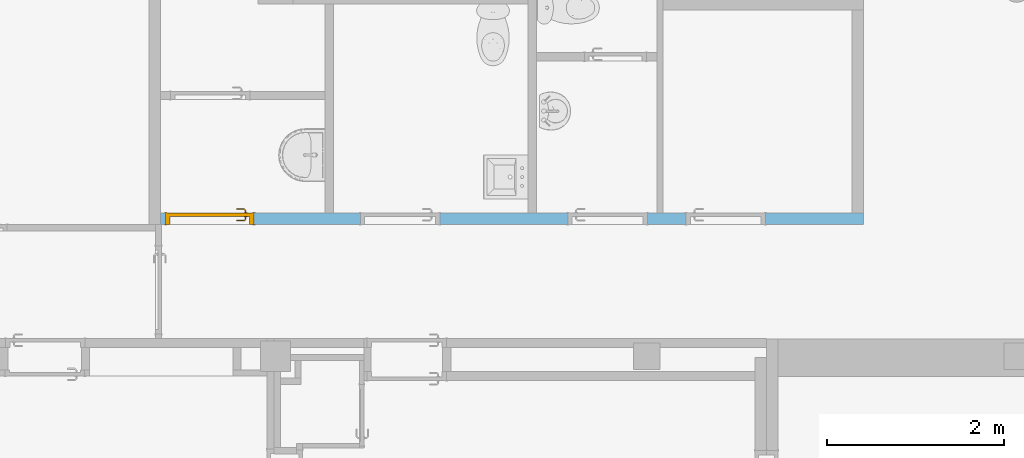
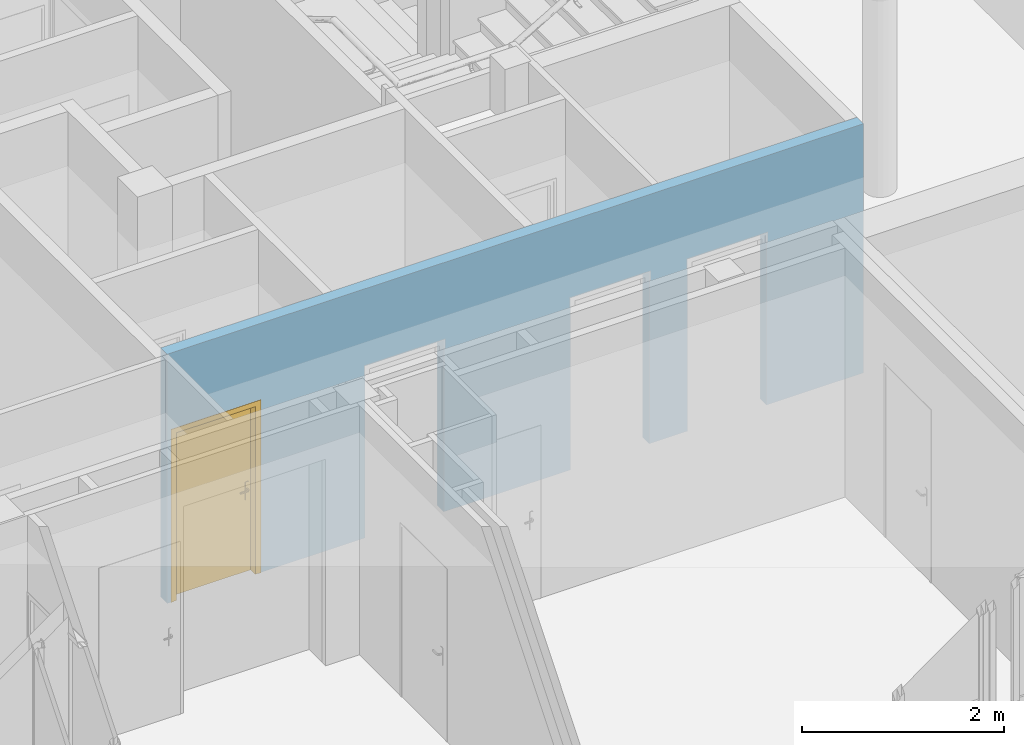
# One storey, part 65 of 97: 1 door, 4 openings, plus 1 element that does not belong to this part.
"""IFC4 building model written with IfcOpenShell, lengths in metres."""

import ifcopenshell
import ifcopenshell.guid

model = None  # the IFC model being written
_history = None  # IfcOwnerHistory: only IFC2X3 demands one
_inside = {}  # id of a spatial element -> (the spatial element, [elements in it])
_under = {}  # id of a project, library or spatial element -> (it, [spatial elements below it])
_declared = {}  # id of a project -> (the project, [libraries it declares])
_typed = {}  # id of a type object -> (the type object, [elements of that type])
_made_of = {}  # id of a material, layer set ... -> (it, [elements and type objects made of it])


def new_model(schema):
    """Start an empty IFC model of exactly this schema.

    Asked for "IFC4X3", IfcOpenShell would pick the latest addendum, in which some entities
    have other attributes; the version numbers below select the first issue.
    IFC2X3 requires an IfcOwnerHistory on every rooted entity: one is made here for all.
    """
    global model, _history
    if schema == "IFC4X3":
        model = ifcopenshell.file(schema_version=(4, 3, 0, 0))
    else:
        model = ifcopenshell.file(schema=schema)
    _inside.clear()
    _under.clear()
    _declared.clear()
    _typed.clear()
    _made_of.clear()
    _history = None
    if model.schema == "IFC2X3":
        org = make("IfcOrganization", Name="unknown")
        user = make(
            "IfcPersonAndOrganization",
            ThePerson=make("IfcPerson", FamilyName="unknown"),
            TheOrganization=org,
        )
        app = make(
            "IfcApplication",
            ApplicationDeveloper=org,
            Version="unknown",
            ApplicationFullName="unknown",
            ApplicationIdentifier="unknown",
        )
        _history = make(
            "IfcOwnerHistory",
            OwningUser=user,
            OwningApplication=app,
            ChangeAction="ADDED",
            CreationDate=0,
        )
    return model


def make(cls, **values):
    """One entity of the class cls with the attributes given. An attribute that is None is left unset."""
    return model.create_entity(
        cls, **{name: value for name, value in values.items() if value is not None}
    )


def entity(cls, *values):
    """Any entity or typed value of the class cls, its attributes in the order of the schema. None: left unset."""
    e = model.create_entity(cls)
    for i, value in enumerate(values):
        if value is not None:
            e[i] = value
    return e


def rooted(cls, **values):
    """An entity with a GlobalId (a new one), such as an element, a storey or a relation."""
    return make(cls, GlobalId=ifcopenshell.guid.new(), OwnerHistory=_history, **values)


def si_unit(unit_type, name, prefix=None):
    """IfcSIUnit, for example si_unit("LENGTHUNIT", "METRE", prefix="MILLI")."""
    return make("IfcSIUnit", UnitType=unit_type, Prefix=prefix, Name=name)


def converted_unit(unit_type, name, factor, base, dimensions=None, offset=None):
    """IfcConversionBasedUnit, such as the inch: factor (a typed value) times the base unit."""
    return make(
        "IfcConversionBasedUnit"
        if offset is None
        else "IfcConversionBasedUnitWithOffset",
        ConversionOffset=offset,
        Dimensions=None
        if dimensions is None
        else entity("IfcDimensionalExponents", *dimensions),
        UnitType=unit_type,
        Name=name,
        ConversionFactor=make(
            "IfcMeasureWithUnit", ValueComponent=factor, UnitComponent=base
        ),
    )


def derived_unit(unit_type, elements):
    """IfcDerivedUnit: a product of units, each with its exponent."""
    return make(
        "IfcDerivedUnit",
        Elements=[
            make("IfcDerivedUnitElement", Unit=unit, Exponent=power)
            for unit, power in elements
        ],
        UnitType=unit_type,
    )


def assignment(units):
    """IfcUnitAssignment: the units of a project."""
    return None if units is None else make("IfcUnitAssignment", Units=units)


def point(xyz):
    """IfcCartesianPoint."""
    return None if xyz is None else make("IfcCartesianPoint", Coordinates=xyz)


def direction(xyz):
    """IfcDirection."""
    return None if xyz is None else make("IfcDirection", DirectionRatios=xyz)


def frame(location, z_axis=None, x_axis=None):
    """IfcAxis2Placement3D, a coordinate frame: its origin and axes. An axis left out is left unset."""
    return make(
        "IfcAxis2Placement3D",
        Location=point(location),
        Axis=direction(z_axis),
        RefDirection=direction(x_axis),
    )


def origin():
    """The frame at (0, 0, 0) with its axes left unset."""
    return frame((0.0, 0.0, 0.0))


def place(relative_to, where):
    """IfcLocalPlacement: puts the frame where relative to a parent placement (None: the world)."""
    return make(
        "IfcLocalPlacement", PlacementRelTo=relative_to, RelativePlacement=where
    )


def context(
    kind, dimensions, precision=None, world=None, true_north=None, identifier=None
):
    """IfcGeometricRepresentationContext, for example the 3D "Model" context."""
    return make(
        "IfcGeometricRepresentationContext",
        ContextIdentifier=identifier,
        ContextType=kind,
        CoordinateSpaceDimension=dimensions,
        Precision=precision,
        WorldCoordinateSystem=world,
        TrueNorth=true_north,
    )


def subcontext(parent, identifier, kind, view, scale=None):
    """IfcGeometricRepresentationSubContext, for example "Body" below "Model"."""
    return make(
        "IfcGeometricRepresentationSubContext",
        ContextIdentifier=identifier,
        ContextType=kind,
        ParentContext=parent,
        TargetScale=scale,
        TargetView=view,
    )


def project(units=None, contexts=None):
    """IfcProject with its units and contexts."""
    return rooted(
        "IfcProject",
        Name="project",
        RepresentationContexts=contexts,
        UnitsInContext=assignment(units),
    )


def spatial(cls, under=None, at=None, **own):
    """A site, building, storey or space (cls), placed at a placement, below another one or the project."""
    s = rooted(cls, ObjectPlacement=at, **own)
    if under is not None:
        _under.setdefault(under.id(), (under, []))[1].append(s)
    return s


def point_list(points):
    """IfcCartesianPointList2D or 3D."""
    cls = (
        "IfcCartesianPointList2D" if len(points[0]) == 2 else "IfcCartesianPointList3D"
    )
    return make(cls, CoordList=points)


def indexed_curve(points, segments=None, self_intersect=None):
    """IfcIndexedPolyCurve: lines and arcs through numbered points (the first is 1)."""
    return make(
        "IfcIndexedPolyCurve",
        Points=point_list(points),
        Segments=segments,
        SelfIntersect=self_intersect,
    )


def outline(outer, holes=None, kind="AREA"):
    """IfcArbitraryClosedProfileDef: a profile drawn as a closed curve; with holes, ...WithVoids."""
    if holes is None:
        return make("IfcArbitraryClosedProfileDef", ProfileType=kind, OuterCurve=outer)
    return make(
        "IfcArbitraryProfileDefWithVoids",
        ProfileType=kind,
        OuterCurve=outer,
        InnerCurves=holes,
    )


def extrude(swept, where, along, depth):
    """IfcExtrudedAreaSolid: the profile swept, set in the frame where, extruded along a direction by depth."""
    return make(
        "IfcExtrudedAreaSolid",
        SweptArea=swept,
        Position=where,
        ExtrudedDirection=direction(along),
        Depth=depth,
    )


def polygons(points, faces, closed=None, point_numbers=None):
    """IfcPolygonalFaceSet: a face is its outer loop, then its inner loops; points numbered from 1."""
    made = []
    for loops in faces:
        if len(loops) == 1:
            made.append(make("IfcIndexedPolygonalFace", CoordIndex=loops[0]))
        else:
            made.append(
                make(
                    "IfcIndexedPolygonalFaceWithVoids",
                    CoordIndex=loops[0],
                    InnerCoordIndices=loops[1:],
                )
            )
    return make(
        "IfcPolygonalFaceSet",
        Coordinates=point_list(points),
        Closed=closed,
        Faces=made,
        PnIndex=point_numbers,
    )


def shape(context_of_items, identifier, shape_type, items):
    """IfcShapeRepresentation: the items that make up one representation, for example the "Body"."""
    return make(
        "IfcShapeRepresentation",
        ContextOfItems=context_of_items,
        RepresentationIdentifier=identifier,
        RepresentationType=shape_type,
        Items=items,
    )


def source(mapping_origin, context_of_items, identifier, shape_type, items):
    """IfcRepresentationMap: a shape defined once, which mapped items show again and again."""
    return make(
        "IfcRepresentationMap",
        MappingOrigin=mapping_origin,
        MappedRepresentation=shape(context_of_items, identifier, shape_type, items),
    )


def transform(
    local_origin,
    x_axis=None,
    y_axis=None,
    z_axis=None,
    scale=None,
    scale2=None,
    scale3=None,
    uniform=True,
):
    """IfcCartesianTransformationOperator3D, or its non-uniform kind. x_axis, y_axis, z_axis: its Axis1, 2, 3."""
    if uniform:
        return make(
            "IfcCartesianTransformationOperator3D",
            Axis1=direction(x_axis),
            Axis2=direction(y_axis),
            LocalOrigin=point(local_origin),
            Scale=scale,
            Axis3=direction(z_axis),
        )
    return make(
        "IfcCartesianTransformationOperator3DnonUniform",
        Axis1=direction(x_axis),
        Axis2=direction(y_axis),
        LocalOrigin=point(local_origin),
        Scale=scale,
        Axis3=direction(z_axis),
        Scale2=scale2,
        Scale3=scale3,
    )


def mapped(mapping_source, mapping_target):
    """IfcMappedItem: shows the shape of a source again, moved by a transform."""
    return make(
        "IfcMappedItem", MappingSource=mapping_source, MappingTarget=mapping_target
    )


def material(Name=None, Category=None):
    """IfcMaterial."""
    return make("IfcMaterial", Name=Name, Category=Category)


def material_list(materials):
    """IfcMaterialList."""
    return make("IfcMaterialList", Materials=materials)


def layer(
    of_material, thickness, ventilated=None, Name=None, Category=None, Priority=None
):
    """IfcMaterialLayer: one layer of a wall or slab, of a material (None: an air gap)."""
    return make(
        "IfcMaterialLayer",
        Material=of_material,
        LayerThickness=thickness,
        IsVentilated=ventilated,
        Name=Name,
        Category=Category,
        Priority=Priority,
    )


def layer_set(layers, Name=None):
    """IfcMaterialLayerSet."""
    return make("IfcMaterialLayerSet", MaterialLayers=layers, LayerSetName=Name)


def constituent(of_material, Name=None, Category=None, fraction=None):
    """IfcMaterialConstituent: one of the materials an element consists of."""
    return make(
        "IfcMaterialConstituent",
        Name=Name,
        Material=of_material,
        Fraction=fraction,
        Category=Category,
    )


def constituent_set(constituents=None, Name=None):
    """IfcMaterialConstituentSet."""
    return make(
        "IfcMaterialConstituentSet", Name=Name, MaterialConstituents=constituents
    )


def made_of(thing, what):
    """Note that an element or type object is made of a material, layer set ...; save() writes the relation."""
    if what is not None:
        _made_of.setdefault(what.id(), (what, []))[1].append(thing)
    return thing


def type_object(cls, material=None, **own):
    """A type object (cls), such as IfcWallType, which elements share."""
    return made_of(rooted(cls, **own), material)


def type_shapes(of_type, sources):
    """Give a type object the sources (RepresentationMaps) that its elements show as mapped items."""
    of_type.RepresentationMaps = sources


def element(
    cls,
    number,
    at=None,
    inside=None,
    cuts=None,
    type_object=None,
    material=None,
    context=None,
    identifier="Body",
    shape_type=None,
    held_by="IfcProductDefinitionShape",
    body=None,
    shapes=None,
    **own,
):
    """One element of the class cls, such as IfcWall. Its Tag is "e" and its number.

    at: its placement. inside: the storey or other place that contains it. cuts: it is an
    opening in that element (IfcRelVoidsElement). A single representation is given by context,
    identifier, shape_type and body (its items); several are given by shapes. held_by: the class
    of the entity that holds the representations. save() writes the other relations.
    """
    e = rooted(cls, Tag="e%d" % number, ObjectPlacement=at, **own)
    if body is not None:
        shapes = [shape(context, identifier, shape_type, body)]
    if shapes is not None:
        e.Representation = make(held_by, Representations=shapes)
    if inside is not None:
        _inside.setdefault(inside.id(), (inside, []))[1].append(e)
    if cuts is not None:
        rooted(
            "IfcRelVoidsElement", RelatingBuildingElement=cuts, RelatedOpeningElement=e
        )
    if type_object is not None:
        _typed.setdefault(type_object.id(), (type_object, []))[1].append(e)
    return made_of(e, material)


def fill(opening, filler):
    """IfcRelFillsElement: the door or window that sits in an opening."""
    return rooted(
        "IfcRelFillsElement",
        RelatingOpeningElement=opening,
        RelatedBuildingElement=filler,
    )


def aggregate(whole, parts):
    """IfcRelAggregates: a whole, such as a stair, and the parts it consists of."""
    return rooted("IfcRelAggregates", RelatingObject=whole, RelatedObjects=parts)


def save(model, path):
    """Write the relations noted so far, then the file.

    IfcRelAggregates (storeys below a building ...), IfcRelContainedInSpatialStructure (elements
    in a storey), IfcRelDefinesByType, IfcRelAssociatesMaterial and IfcRelDeclares: one each for
    every whole, place, type object, material and project.
    """
    for whole, parts in _under.values():
        aggregate(whole, parts)
    for where, things in _inside.values():
        rooted(
            "IfcRelContainedInSpatialStructure",
            RelatedElements=things,
            RelatingStructure=where,
        )
    for kind, things in _typed.values():
        rooted("IfcRelDefinesByType", RelatedObjects=things, RelatingType=kind)
    for what, things in _made_of.values():
        rooted("IfcRelAssociatesMaterial", RelatedObjects=things, RelatingMaterial=what)
    for by, libraries in _declared.values():
        rooted("IfcRelDeclares", RelatingContext=by, RelatedDefinitions=libraries)
    model.write(path)


model = new_model("IFC4")

# Units and contexts
model_context = context("Model", 3, precision=1e-05, world=origin(), true_north=direction((6.12303176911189e-17, 1.0)))
body_context = subcontext(model_context, "Body", "Model", "MODEL_VIEW")
ifc_project = project(units=[si_unit("LENGTHUNIT", "METRE"), si_unit("AREAUNIT", "SQUARE_METRE"), si_unit("VOLUMEUNIT", "CUBIC_METRE"), converted_unit("PLANEANGLEUNIT", "DEGREE", entity("IfcRatioMeasure", 0.0174532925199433), si_unit("PLANEANGLEUNIT", "RADIAN"), dimensions=[0, 0, 0, 0, 0, 0, 0]), si_unit("MASSUNIT", "GRAM", prefix="KILO"), derived_unit("MASSDENSITYUNIT", [(si_unit("MASSUNIT", "GRAM", prefix="KILO"), 1), (si_unit("LENGTHUNIT", "METRE"), -3)]), derived_unit("MOMENTOFINERTIAUNIT", [(si_unit("LENGTHUNIT", "METRE"), 4)]), si_unit("TIMEUNIT", "SECOND"), si_unit("FREQUENCYUNIT", "HERTZ"), si_unit("THERMODYNAMICTEMPERATUREUNIT", "DEGREE_CELSIUS"), derived_unit("THERMALTRANSMITTANCEUNIT", [(si_unit("MASSUNIT", "GRAM", prefix="KILO"), 1), (si_unit("THERMODYNAMICTEMPERATUREUNIT", "KELVIN"), -1), (si_unit("TIMEUNIT", "SECOND"), -3)]), derived_unit("VOLUMETRICFLOWRATEUNIT", [(si_unit("LENGTHUNIT", "METRE"), 3), (si_unit("TIMEUNIT", "SECOND"), -1)]), si_unit("ELECTRICCURRENTUNIT", "AMPERE"), si_unit("ELECTRICVOLTAGEUNIT", "VOLT"), si_unit("POWERUNIT", "WATT"), si_unit("FORCEUNIT", "NEWTON", prefix="KILO"), si_unit("ILLUMINANCEUNIT", "LUX"), si_unit("LUMINOUSFLUXUNIT", "LUMEN"), si_unit("LUMINOUSINTENSITYUNIT", "CANDELA"), derived_unit("USERDEFINED", [(si_unit("MASSUNIT", "GRAM", prefix="KILO"), -1), (si_unit("LENGTHUNIT", "METRE"), -2), (si_unit("TIMEUNIT", "SECOND"), 3), (si_unit("LUMINOUSFLUXUNIT", "LUMEN"), 1)]), derived_unit("LINEARVELOCITYUNIT", [(si_unit("LENGTHUNIT", "METRE"), 1), (si_unit("TIMEUNIT", "SECOND"), -1)]), si_unit("PRESSUREUNIT", "PASCAL"), derived_unit("USERDEFINED", [(si_unit("LENGTHUNIT", "METRE"), -2), (si_unit("MASSUNIT", "GRAM", prefix="KILO"), 1), (si_unit("TIMEUNIT", "SECOND"), -2)]), derived_unit("LINEARFORCEUNIT", [(si_unit("MASSUNIT", "GRAM", prefix="KILO"), 1), (si_unit("LENGTHUNIT", "METRE"), 1), (si_unit("TIMEUNIT", "SECOND"), -2), (si_unit("LENGTHUNIT", "METRE"), -1)]), derived_unit("PLANARFORCEUNIT", [(si_unit("MASSUNIT", "GRAM", prefix="KILO"), 1), (si_unit("LENGTHUNIT", "METRE"), 1), (si_unit("TIMEUNIT", "SECOND"), -2), (si_unit("LENGTHUNIT", "METRE"), -2)])], contexts=[model_context])

# Site, building, storey
site_placement = place(None, origin())
site = spatial("IfcSite", under=ifc_project, at=site_placement, Name="Default", CompositionType="ELEMENT")
building_placement = place(site_placement, origin())
building = spatial("IfcBuilding", under=site, at=building_placement, Name="HOTEL CONSULAIRE BOULOGNE SUR MER", CompositionType="ELEMENT")
storey_placement = place(building_placement, frame((0.0, 0.0, 3.62152697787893)))
storey = spatial("IfcBuildingStorey", under=building, at=storey_placement, Name="Niveau 1", CompositionType="ELEMENT", Elevation=3.62152697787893)

# Wall, openings, door
ifc_material_1 = material(Name="Mur par défaut", Category="Divers")
ifc_layer = layer(ifc_material_1, 0.13, Name="Mur par défaut", Category="Divers")
ifc_layer_set = layer_set([ifc_layer], Name="Mur de base:Générique - Int. 130 mm")
wall_type = type_object("IfcWallType", Name="Mur de base:Générique - Int. 130 mm", PredefinedType="NOTDEFINED", material=ifc_layer_set)
wall_placement = place(storey_placement, frame((5.42705530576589, -22.4600276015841, 0.0), z_axis=(0.0, 0.0, 1.0), x_axis=(-1.0, 0.0, 0.0)))
wall = element("IfcWall", 1, at=wall_placement, inside=storey, type_object=wall_type, material=ifc_layer_set, Name="Mur de base:Générique - Int. 130 mm", ObjectType="Mur de base:Générique - Int. 130 mm", PredefinedType="NOTDEFINED", context=body_context, shape_type="Tessellation", body=[
    polygons([(7.95758399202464, -0.0650000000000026, 0.0), (7.90058399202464, -0.0649999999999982, 0.0), (7.90058399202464, 0.0649999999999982, 0.0), (7.94618813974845, 0.0649999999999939, 0.0), (7.95758399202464, 0.0649999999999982, 0.0), (6.90058399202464, -0.0650000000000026, 0.0), (6.09803531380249, -0.0650000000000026, 0.0), (5.99803531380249, -0.0650000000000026, 0.0), (5.69603531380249, -0.0650000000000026, 0.0), (5.69603531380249, 0.0649999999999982, 0.0), (6.90058399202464, 0.0649999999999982, 0.0), (4.79603531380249, -0.0650000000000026, 0.0), (3.79958399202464, -0.0650000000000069, 0.0), (3.69958399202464, -0.0650000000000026, 0.0), (3.34724170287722, -0.0649999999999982, 0.0), (3.34724170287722, 0.0649999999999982, 0.0), (4.79603531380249, 0.0650000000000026, 0.0), (2.44724170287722, -0.0650000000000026, 0.0), (2.33924170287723, -0.0650000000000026, 0.0), (2.26924170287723, -0.0650000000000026, 0.0), (2.00824170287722, -0.0649999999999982, 0.0), (2.00824170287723, 0.0649999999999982, 0.0), (2.44724170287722, 0.0649999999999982, 0.0), (7.95758399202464, -0.0649999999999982, 3.01021454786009), (6.09803531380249, -0.0650000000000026, 3.01021454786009), (5.99803531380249, -0.0650000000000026, 3.01021454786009), (3.79958399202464, -0.0650000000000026, 3.01021454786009), (3.69958399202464, -0.0649999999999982, 3.01021454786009), (2.33924170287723, -0.0650000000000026, 3.01021454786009), (2.26924170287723, -0.0649999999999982, 3.01021454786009), (0.130000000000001, -0.0650000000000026, 3.01021454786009), (-2.38412309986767e-16, -0.0650000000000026, 3.01021454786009), (-2.38412309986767e-16, -0.0650000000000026, 0.0), (0.129999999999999, -0.0650000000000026, 0.0), (1.10824170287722, -0.0650000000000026, 0.0), (1.10824170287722, -0.0650000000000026, 2.075), (2.00824170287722, -0.0649999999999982, 2.075), (2.44724170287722, -0.0650000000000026, 2.075), (3.34724170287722, -0.0649999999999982, 2.075), (4.79603531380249, -0.0649999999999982, 2.075), (5.69603531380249, -0.0650000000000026, 2.075), (6.90058399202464, -0.0650000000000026, 2.075), (7.90058399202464, -0.0649999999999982, 2.075), (-6.35807461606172e-16, 0.0649999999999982, 3.01021454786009), (7.94618813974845, 0.0650000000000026, 3.01021454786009), (7.95758399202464, 0.0650000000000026, 3.01021454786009), (7.90058399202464, 0.0650000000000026, 2.075), (6.90058399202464, 0.0649999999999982, 2.075), (5.69603531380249, 0.0649999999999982, 2.075), (4.79603531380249, 0.0650000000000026, 2.075), (3.34724170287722, 0.0650000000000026, 2.075), (2.44724170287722, 0.0649999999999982, 2.075), (2.00824170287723, 0.0650000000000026, 2.075), (1.10824170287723, 0.0649999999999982, 2.075), (1.10824170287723, 0.0649999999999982, 0.0), (-6.35807461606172e-16, 0.0649999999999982, 0.0)], [[[1, 2, 3, 4, 5]], [[7, 8, 9, 10, 11, 6]], [[13, 14, 15, 16, 17, 12]], [[20, 21, 22, 23, 18, 19]], [[39, 38, 52, 51]], [[37, 36, 54, 53]], [[50, 49, 41, 40]], [[48, 47, 43, 42]], [[34, 33, 56, 55, 35]], [[34, 35, 36, 37, 21, 20, 19, 18, 38, 39, 15, 14, 13, 12, 40, 41, 9, 8, 7, 6, 42, 43, 2, 1, 24, 25, 26, 27, 28, 29, 30, 31, 32, 33]], [[47, 48, 11, 10, 49, 50, 17, 16, 51, 52, 23, 22, 53, 54, 55, 56, 44, 45, 46, 5, 4, 3]], [[25, 24, 46, 45, 44, 32, 31, 30, 29, 28, 27, 26]], [[44, 56, 33, 32]], [[15, 39, 51, 16]], [[21, 37, 53, 22]], [[49, 10, 9, 41]], [[47, 3, 2, 43]], [[1, 5, 46, 24]], [[38, 18, 23, 52]], [[36, 35, 55, 54]], [[17, 50, 40, 12]], [[11, 48, 42, 6]]], closed=True),
])
opening_1_placement = place(wall_placement, frame((3.34724170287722, 0.0649999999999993, 0.0)))
element("IfcOpeningElement", 2, at=opening_1_placement, cuts=wall, Name="Int. Simple:PP (0.83m x 2.04m):1", ObjectType="Opening", PredefinedType="OPENING", context=body_context, shape_type="SweptSolid", body=[
    extrude(outline(indexed_curve([(0.0, 0.9), (0.0, 0.0), (2.075, 0.0), (2.075, 0.9), (0.0, 0.9)], self_intersect=False)), frame((0.0, 0.0, 0.0), z_axis=(0.0, -1.0, 0.0), x_axis=(0.0, 0.0, 1.0)), (0.0, 0.0, 1.0), 0.13),
])
opening_2_placement = place(wall_placement, frame((2.00824170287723, 0.0649999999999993, 0.0)))
element("IfcOpeningElement", 3, at=opening_2_placement, cuts=wall, Name="Int. Simple:PP (0.83m x 2.04m):1", ObjectType="Opening", PredefinedType="OPENING", context=body_context, shape_type="SweptSolid", body=[
    extrude(outline(indexed_curve([(0.0, 0.9), (0.0, 0.0), (2.075, 0.0), (2.075, 0.9), (0.0, 0.9)], self_intersect=False)), frame((0.0, 0.0, 0.0), z_axis=(0.0, -1.0, 0.0), x_axis=(0.0, 0.0, 1.0)), (0.0, 0.0, 1.0), 0.13),
])
opening_3_placement = place(wall_placement, frame((5.69603531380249, 0.0650000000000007, 0.0)))
element("IfcOpeningElement", 4, at=opening_3_placement, cuts=wall, Name="Int. Simple:PP (0.83m x 2.04m):1", ObjectType="Opening", PredefinedType="OPENING", context=body_context, shape_type="SweptSolid", body=[
    extrude(outline(indexed_curve([(0.0, 0.0), (2.075, 0.0), (2.075, 0.9), (0.0, 0.9), (0.0, 0.0)], self_intersect=False)), frame((0.0, 0.0, 0.0), z_axis=(0.0, -1.0, 0.0), x_axis=(0.0, 0.0, 1.0)), (0.0, 0.0, 1.0), 0.13),
])
opening_4_placement = place(wall_placement, frame((7.90058399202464, 0.0650000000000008, 0.0)))
opening_4 = element("IfcOpeningElement", 5, at=opening_4_placement, cuts=wall, Name="Int. Simple:PP0.93x2.04:1", ObjectType="Opening", PredefinedType="OPENING", context=body_context, shape_type="SweptSolid", body=[
    extrude(outline(indexed_curve([(0.0, 0.0), (2.075, 0.0), (2.075, 1.0), (0.0, 1.0), (0.0, 0.0)], self_intersect=False)), frame((0.0, 0.0, 0.0), z_axis=(0.0, -1.0, 0.0), x_axis=(0.0, 0.0, 1.0)), (0.0, 0.0, 1.0), 0.13),
])
ifc_material_2 = material(Name="Finition Peinture - Blanc satiné", Category="Peinture")
ifc_constituent_1 = constituent(ifc_material_2, Name="Finition Peinture - Blanc satiné", Category="Matériaux")
ifc_material_3 = material(Name="Bois - Panneau de porte", Category="Bois")
ifc_constituent_2 = constituent(ifc_material_3, Name="Bois - Panneau de porte", Category="Matériaux")
ifc_material_4 = material(Name="Bois - Cadre de porte", Category="Bois")
ifc_constituent_3 = constituent(ifc_material_4, Name="Bois - Cadre de porte", Category="Matériaux")
ifc_constituent_set = constituent_set(constituents=[ifc_constituent_1, ifc_constituent_2, ifc_constituent_3], Name="MaterialConstituentSet")
ifc_material_list = material_list([ifc_material_3, ifc_material_4, ifc_material_2, ifc_material_4])
door_type = type_object("IfcDoorType", Name="Int. Simple:PP0.93x2.04", OperationType="NOTDEFINED", PredefinedType="DOOR", material=ifc_material_list)
shared_shape = source(origin(), body_context, "Body", "Tessellation", [
    polygons([(0.075000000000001, -0.00500000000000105, 0.870000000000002), (0.0846472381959, -0.00500000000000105, 0.866003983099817), (0.0950000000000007, -0.00500000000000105, 0.86464101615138), (0.105352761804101, -0.00500000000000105, 0.866003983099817), (0.115, -0.00500000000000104, 0.870000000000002), (0.114999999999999, -0.00500000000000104, 1.08), (0.1053527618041, -0.00500000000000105, 1.08399601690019), (0.0949999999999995, -0.00500000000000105, 1.08535898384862), (0.0846472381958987, -0.00500000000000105, 1.08399601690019), (0.0749999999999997, -0.00500000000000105, 1.08), (0.0749999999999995, -1.05748743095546e-15, 0.870000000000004), (0.0749999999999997, -1.05748743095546e-15, 1.08), (0.0846472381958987, -1.05748743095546e-15, 1.08399601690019), (0.0949999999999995, -1.04902753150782e-15, 1.08535898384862), (0.1053527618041, -1.04902753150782e-15, 1.08399601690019), (0.114999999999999, -1.04056763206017e-15, 1.08), (0.115, -1.04056763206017e-15, 0.870000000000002), (0.105352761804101, -1.04902753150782e-15, 0.866003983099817), (0.0950000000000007, -1.04902753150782e-15, 0.86464101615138), (0.0846472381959, -1.05748743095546e-15, 0.866003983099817)], [[[4, 5, 6, 7, 8, 9, 10, 1, 2, 3]], [[15, 16, 17, 18, 19, 20, 11, 12, 13, 14]], [[11, 20, 2, 1]], [[2, 20, 19, 3]], [[19, 18, 4, 3]], [[18, 17, 5, 4]], [[6, 5, 17, 16]], [[16, 15, 7, 6]], [[7, 15, 14, 8]], [[14, 13, 9, 8]], [[13, 12, 10, 9]], [[1, 10, 12, 11]]], closed=True),
    polygons([(0.114999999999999, 0.0399999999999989, 1.08), (0.1053527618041, 0.0399999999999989, 1.08399601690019), (0.0949999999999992, 0.0399999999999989, 1.08535898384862), (0.0846472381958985, 0.0399999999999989, 1.08399601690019), (0.0749999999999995, 0.0399999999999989, 1.08), (0.075000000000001, 0.0399999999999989, 0.870000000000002), (0.0846472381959, 0.0399999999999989, 0.866003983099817), (0.0950000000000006, 0.0399999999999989, 0.86464101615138), (0.105352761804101, 0.0399999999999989, 0.866003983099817), (0.115, 0.0399999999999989, 0.870000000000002), (0.114999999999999, 0.0449999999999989, 1.08), (0.115, 0.0449999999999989, 0.870000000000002), (0.105352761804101, 0.0449999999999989, 0.866003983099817), (0.0950000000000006, 0.0449999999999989, 0.86464101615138), (0.0846472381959, 0.0449999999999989, 0.866003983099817), (0.0749999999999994, 0.0449999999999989, 0.870000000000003), (0.0749999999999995, 0.0449999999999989, 1.08), (0.0846472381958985, 0.0449999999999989, 1.08399601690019), (0.0949999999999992, 0.0449999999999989, 1.08535898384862), (0.1053527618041, 0.0449999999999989, 1.08399601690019)], [[[9, 10, 1, 2, 3, 4, 5, 6, 7, 8]], [[20, 11, 12, 13, 14, 15, 16, 17, 18, 19]], [[11, 20, 2, 1]], [[2, 20, 19, 3]], [[19, 18, 4, 3]], [[18, 17, 5, 4]], [[6, 5, 17, 16]], [[16, 15, 7, 6]], [[7, 15, 14, 8]], [[14, 13, 9, 8]], [[13, 12, 10, 9]], [[1, 10, 12, 11]]], closed=True),
    polygons([(0.0889999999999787, -0.00500000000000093, 1.007), (0.0929747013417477, -0.00500000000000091, 1.00778044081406), (0.097025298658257, -0.00500000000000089, 1.00778044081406), (0.101000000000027, -0.00500000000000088, 1.00699999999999), (0.101000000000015, -0.00500000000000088, 0.993000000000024), (0.0970252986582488, -0.00500000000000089, 0.992219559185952), (0.0929747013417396, -0.00500000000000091, 0.99221955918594), (0.0889999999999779, -0.00500000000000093, 0.992999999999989), (0.0889999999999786, -0.0326509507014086, 1.007), (0.0929747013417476, -0.0310045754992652, 1.00778044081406), (0.0970252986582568, -0.0293267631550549, 1.00778044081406), (0.101000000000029, -0.0276803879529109, 1.007), (0.101000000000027, -0.0276803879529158, 0.993000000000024), (0.0970252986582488, -0.0293267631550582, 0.992219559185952), (0.0929747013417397, -0.0310045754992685, 0.99221955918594), (0.0889999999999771, -0.0326509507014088, 0.992999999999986), (0.107377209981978, -0.0510281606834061, 1.007), (0.109023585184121, -0.0470534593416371, 1.00778044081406), (0.110701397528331, -0.0430028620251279, 1.00778044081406), (0.112347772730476, -0.0390281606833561, 1.007), (0.112347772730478, -0.0390281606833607, 0.993000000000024), (0.110701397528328, -0.0430028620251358, 0.992219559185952), (0.109023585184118, -0.0470534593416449, 0.99221955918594), (0.107377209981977, -0.0510281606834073, 0.992999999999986), (0.195018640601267, -0.0510281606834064, 1.00699999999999), (0.195018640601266, -0.051028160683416, 0.992999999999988), (0.195018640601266, -0.0470534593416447, 0.99221955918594), (0.195018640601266, -0.0430028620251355, 0.992219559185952), (0.195018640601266, -0.0390281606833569, 0.993000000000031), (0.195018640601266, -0.0390281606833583, 1.007), (0.195018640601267, -0.0430028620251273, 1.00778044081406), (0.195018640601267, -0.0470534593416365, 1.00778044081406), (0.147307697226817, -0.0510281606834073, 1.007), (0.152860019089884, -0.045028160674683, 1.0078786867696), (0.15368320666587, -0.039028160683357, 1.007), (0.147307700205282, -0.0510281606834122, 0.992999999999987), (0.152860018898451, -0.0450281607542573, 0.992121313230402), (0.153683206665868, -0.0390281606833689, 0.993000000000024)], [[[2, 3, 4, 5, 6, 7, 8, 1]], [[21, 20, 35, 30, 29, 38]], [[9, 10, 2, 1]], [[10, 18, 19, 11, 3, 2]], [[11, 12, 4, 3]], [[5, 4, 12, 13]], [[26, 27, 28, 29, 30, 31, 32, 25]], [[13, 14, 6, 5]], [[14, 22, 23, 15, 7, 6]], [[15, 16, 8, 7]], [[1, 8, 16, 9]], [[17, 18, 10, 9]], [[19, 20, 12, 11]], [[13, 12, 20, 21]], [[21, 22, 14, 13]], [[23, 24, 16, 15]], [[9, 16, 24, 17]], [[33, 32, 34]], [[25, 32, 33]], [[18, 17, 33]], [[34, 35, 19]], [[20, 19, 35]], [[35, 31, 30]], [[32, 31, 34]], [[31, 35, 34]], [[18, 33, 34]], [[18, 34, 19]], [[38, 28, 37]], [[36, 37, 27]], [[21, 38, 22]], [[38, 29, 28]], [[26, 36, 27]], [[24, 23, 36]], [[36, 23, 37]], [[23, 22, 37]], [[22, 38, 37]], [[27, 37, 28]], [[17, 24, 36, 26, 25, 33]]], closed=True),
    polygons([(0.10100000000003, 0.0449999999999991, 0.993000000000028), (0.101000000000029, 0.0449999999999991, 1.007), (0.0970252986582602, 0.0449999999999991, 1.00778044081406), (0.092974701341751, 0.0449999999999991, 1.00778044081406), (0.0889999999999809, 0.0449999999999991, 1.007), (0.0889999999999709, 0.0449999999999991, 0.992999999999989), (0.0929747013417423, 0.0449999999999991, 0.99221955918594), (0.0970252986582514, 0.0449999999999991, 0.992219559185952), (0.10100000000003, 0.067485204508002, 0.993000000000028), (0.10100000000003, 0.0674852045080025, 1.007), (0.0970252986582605, 0.0691315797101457, 1.00778044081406), (0.0929747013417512, 0.070809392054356, 1.00778044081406), (0.088999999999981, 0.0724557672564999, 1.007), (0.0889999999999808, 0.072455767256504, 0.992999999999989), (0.092974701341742, 0.0708093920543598, 0.99221955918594), (0.0970252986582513, 0.0691315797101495, 0.992219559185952), (0.112485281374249, 0.0789704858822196, 0.993000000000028), (0.112485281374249, 0.0789704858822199, 1.007), (0.110838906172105, 0.0829451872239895, 1.00778044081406), (0.109161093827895, 0.0869957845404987, 1.00778044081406), (0.107514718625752, 0.090970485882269, 1.007), (0.107514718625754, 0.090970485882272, 0.992999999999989), (0.109161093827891, 0.0869957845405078, 0.99221955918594), (0.110838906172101, 0.0829451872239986, 0.992219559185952), (0.195045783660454, 0.0789704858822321, 0.993000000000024), (0.195045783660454, 0.0829451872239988, 0.992219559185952), (0.195045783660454, 0.086995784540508, 0.99221955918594), (0.195045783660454, 0.0909704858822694, 0.992999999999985), (0.195045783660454, 0.0909704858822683, 1.007), (0.195045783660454, 0.0869957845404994, 1.00778044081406), (0.195045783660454, 0.0829451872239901, 1.00778044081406), (0.195045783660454, 0.0789704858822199, 1.007), (0.147445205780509, 0.0909704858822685, 1.007), (0.152942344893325, 0.0849704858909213, 1.0078786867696), (0.153765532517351, 0.0789704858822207, 1.007), (0.147445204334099, 0.0909704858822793, 0.992999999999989), (0.152942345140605, 0.0849704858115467, 0.992121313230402), (0.153765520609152, 0.0789704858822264, 0.993000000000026)], [[[4, 5, 6, 7, 8, 1, 2, 3]], [[18, 17, 38, 25, 32, 35]], [[2, 1, 9, 10]], [[25, 26, 27, 28, 29, 30, 31, 32]], [[10, 11, 3, 2]], [[11, 19, 20, 12, 4, 3]], [[12, 13, 5, 4]], [[6, 5, 13, 14]], [[14, 15, 7, 6]], [[15, 23, 24, 16, 8, 7]], [[16, 9, 1, 8]], [[10, 9, 17, 18]], [[18, 19, 11, 10]], [[20, 21, 13, 12]], [[14, 13, 21, 22]], [[22, 23, 15, 14]], [[24, 17, 9, 16]], [[35, 31, 34]], [[33, 34, 30]], [[18, 35, 19]], [[35, 32, 31]], [[29, 33, 30]], [[21, 20, 33]], [[33, 20, 34]], [[20, 19, 34]], [[19, 35, 34]], [[30, 34, 31]], [[21, 33, 29, 28, 36, 22]], [[36, 27, 37]], [[28, 27, 36]], [[23, 22, 36]], [[37, 38, 24]], [[17, 24, 38]], [[38, 26, 25]], [[27, 26, 37]], [[26, 38, 37]], [[23, 36, 37]], [[23, 37, 24]]], closed=True),
    polygons([(0.0349999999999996, 0.04, 2.04), (0.965, 0.04, 2.04), (0.965, 0.04, 0.0), (0.0349999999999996, 0.04, 0.0), (0.0349999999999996, 4.22994972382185e-17, 2.04), (0.0349999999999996, 4.22994972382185e-17, 0.0), (0.965, 4.22994972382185e-17, 0.0), (0.965, 4.22994972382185e-17, 2.04)], [[[4, 1, 2, 3]], [[7, 8, 5, 6]], [[2, 1, 5, 8]], [[3, 2, 8, 7]], [[4, 3, 7, 6]], [[1, 4, 6, 5]]], closed=True),
    polygons([(-1.53631773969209e-14, 1.69197988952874e-17, 0.0), (-1.53631773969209e-14, 0.130000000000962, 0.0), (0.0499999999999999, 0.130000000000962, 0.0), (0.0499999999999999, 0.0400000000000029, 0.0), (0.0349999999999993, 0.0400000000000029, 0.0), (0.0349999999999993, 1.69197988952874e-17, 0.0), (-1.51601398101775e-14, 1.69197988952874e-17, 2.07500000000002), (-1.51601398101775e-14, 0.130000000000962, 2.07500000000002), (1.00000000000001, 0.130000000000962, 2.07500000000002), (1.00000000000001, 0.130000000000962, 3.88816484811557e-25), (0.95, 0.130000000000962, 3.59657255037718e-24), (0.95, 0.130000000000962, 2.025), (0.05, 0.130000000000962, 2.025), (0.05, 0.0400000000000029, 2.025), (0.95, 0.0400000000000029, 2.025), (0.95, 0.0400000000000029, 2.24110802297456e-24), (0.965, 0.0400000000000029, -4.78103047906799e-25), (0.965, 0.0400000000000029, 2.04), (0.0349999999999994, 0.0400000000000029, 2.04), (0.0349999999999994, 1.69197988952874e-17, 2.04), (0.965, 1.69197988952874e-17, 2.04), (0.965, 1.69197988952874e-17, -2.84752548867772e-24), (1.00000000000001, 1.69197988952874e-17, -3.95490158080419e-25), (1.00000000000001, 1.69197988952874e-17, 2.07500000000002)], [[[5, 6, 1, 2, 3, 4]], [[11, 10, 23, 22, 17, 16]], [[14, 13, 12, 15]], [[20, 19, 18, 21]], [[2, 1, 7, 8]], [[15, 12, 11, 16]], [[21, 18, 17, 22]], [[3, 2, 8, 9, 10, 11, 12, 13]], [[4, 3, 13, 14]], [[6, 5, 19, 20]], [[9, 24, 23, 10]], [[16, 17, 18, 19, 5, 4, 14, 15]], [[22, 23, 24, 7, 1, 6, 20, 21]], [[8, 7, 24, 9]]], closed=True),
    polygons([(0.0149999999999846, 0.130000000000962, 0.0), (-0.0150000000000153, 0.130000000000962, 0.0), (-0.0150000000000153, 0.135000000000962, 0.0), (0.0149999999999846, 0.135000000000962, 0.0), (0.0149999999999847, 0.130000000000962, 2.06000000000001), (0.98499999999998, 0.130000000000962, 2.06000000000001), (0.98499999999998, 0.130000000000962, -1.80158911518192e-24), (1.01499999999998, 0.130000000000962, -9.00794238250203e-25), (1.01499999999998, 0.130000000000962, 2.09000000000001), (-0.0150000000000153, 0.130000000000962, 2.09000000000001), (-0.0150000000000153, 0.135000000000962, 2.09000000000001), (1.01499999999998, 0.135000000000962, 2.09000000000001), (1.01499999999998, 0.135000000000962, -5.48159974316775e-24), (0.98499999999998, 0.135000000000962, -4.34281663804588e-24), (0.98499999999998, 0.135000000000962, 2.06000000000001), (0.0149999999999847, 0.135000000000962, 2.06000000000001)], [[[1, 2, 3, 4]], [[14, 13, 8, 7]], [[5, 16, 15, 6]], [[7, 8, 9, 10, 2, 1, 5, 6]], [[3, 2, 10, 11]], [[6, 15, 14, 7]], [[4, 3, 11, 12, 13, 14, 15, 16]], [[1, 4, 16, 5]], [[12, 9, 8, 13]], [[11, 10, 9, 12]]], closed=True),
    polygons([(0.0149999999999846, -0.005, 0.0), (-0.0150000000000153, -0.005, 0.0), (-0.0150000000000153, 1.69197988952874e-17, 0.0), (0.0149999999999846, 1.69197988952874e-17, 0.0), (0.98499999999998, -0.005, 5.41433564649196e-16), (0.98499999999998, 1.69197988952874e-17, 5.41433564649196e-16), (1.01499999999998, 1.69197988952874e-17, 5.41433564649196e-16), (1.01499999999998, -0.005, 5.41433564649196e-16), (0.0149999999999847, -0.005, 2.06000000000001), (0.98499999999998, -0.005, 2.06000000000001), (1.01499999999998, -0.005, 2.09000000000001), (-0.0150000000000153, -0.005, 2.09000000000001), (-0.0150000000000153, 1.69197988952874e-17, 2.09000000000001), (1.01499999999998, 1.69197988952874e-17, 2.09000000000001), (0.98499999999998, 1.69197988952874e-17, 2.06000000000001), (0.0149999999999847, 1.69197988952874e-17, 2.06000000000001)], [[[1, 2, 3, 4]], [[6, 7, 8, 5]], [[9, 16, 15, 10]], [[5, 8, 11, 12, 2, 1, 9, 10]], [[3, 2, 12, 13]], [[10, 15, 6, 5]], [[4, 3, 13, 14, 7, 6, 15, 16]], [[1, 4, 16, 9]], [[14, 11, 8, 7]], [[13, 12, 11, 14]]], closed=True),
])
type_shapes(door_type, [shared_shape])
door_placement = place(opening_4_placement, frame((-1.0, -0.13000000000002, 0.0)))
door = element("IfcDoor", 6, at=door_placement, inside=storey, type_object=door_type, material=ifc_constituent_set, Name="Int. Simple:PP0.93x2.04", ObjectType="Int. Simple:PP0.93x2.04", OperationType="NOTDEFINED", OverallHeight=2.075, OverallWidth=1.0, PredefinedType="DOOR", context=body_context, shape_type="MappedRepresentation", body=[
    mapped(shared_shape, transform((0.0, 0.0, 0.0), scale=1.0)),
])
fill(opening_4, door)

save(model, "model.ifc")
